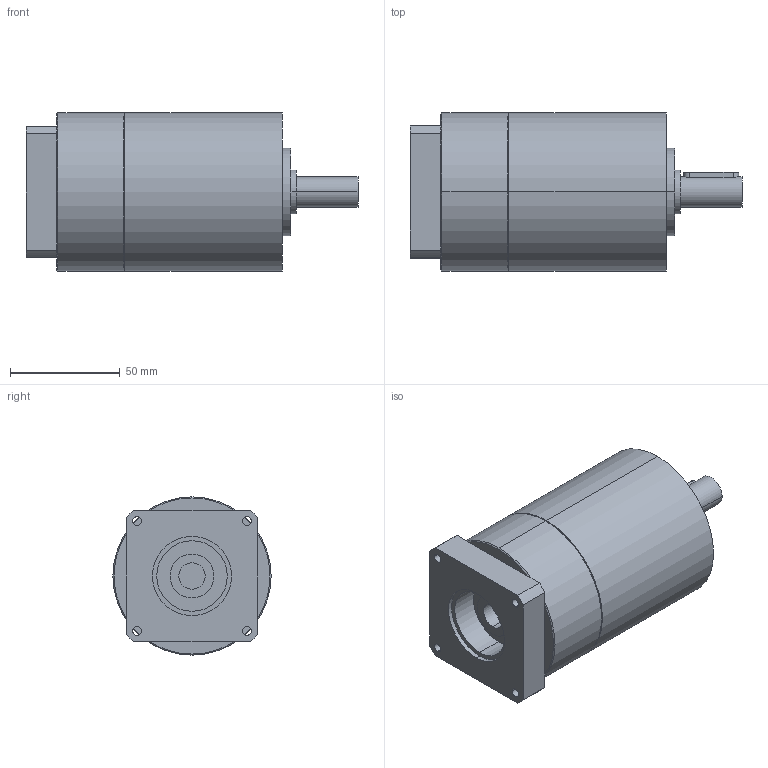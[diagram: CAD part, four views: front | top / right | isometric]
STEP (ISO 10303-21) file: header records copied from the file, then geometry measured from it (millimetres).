
FILE_DESCRIPTION(('CoCreate Modeling STEP Export'),'2;1');
FILE_NAME('GPT75_ig-9-12-16-20-25-28-35-40-50-70-100_14_B14T_12_P35.stp','2014-08-27T13:16:45',(''),(''),'CoCreate Modeling STEP processor for AP214 (Solid Model)','CoCreate Modeling 16.00C 25-Feb-2009 (C) Parametric Technology GmbH','');
FILE_SCHEMA(('AUTOMOTIVE_DESIGN { 1 0 10303 214 1 1 1 1 }'));
Length unit declared in the file: millimetre
Products named in the file (2): GPT75_ig-9-12-16-20-25-28-35-40-50-70-100_14_B14T_12_P35
Assembly tree (1 placements, depth 2):
  GPT75_ig-9-12-16-20-25-28-35-40-50-70-100_14_B14T_12_P35
    GPT75_ig-9-12-16-20-25-28-35-40-50-70-100_14_B14T_12_P35
Bounding box: 151 x 72 x 72 mm (x, y, z)
Volume: 461784.1 mm3; surface area: 41384.2 mm2
Topology: 1 solids, 1 shells, 80 faces, 198 edges, 129 vertices
Faces by surface type: cylinder 42, plane 34, cone 4
Entity records: 2353 total; most frequent: CARTESIAN_POINT 689, ORIENTED_EDGE 396, DIRECTION 276, EDGE_CURVE 198, VERTEX_POINT 129, AXIS2_PLACEMENT_3D 104, EDGE_LOOP 97, FACE_OUTER_BOUND 80
